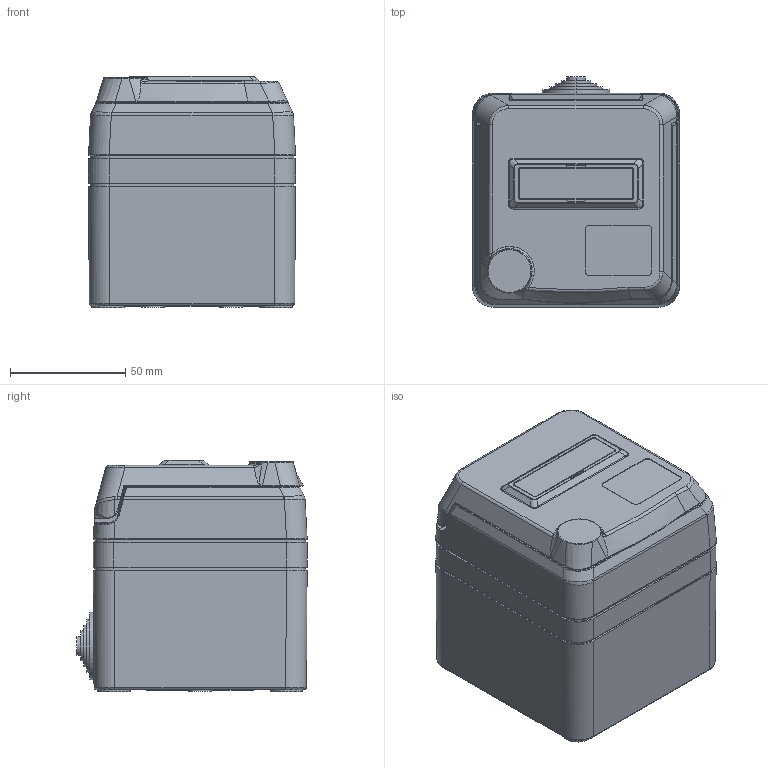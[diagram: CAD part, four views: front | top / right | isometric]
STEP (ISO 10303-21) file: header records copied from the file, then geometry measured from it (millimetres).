
FILE_DESCRIPTION((''),'2;1');
FILE_NAME('C00008890_SW0001','2026-03-26T11:16:42',('thiedeman001'),('MENNEKES'),'CREO PARAMETRIC BY PTC INC, 2024153','CREO PARAMETRIC BY PTC INC, 2024153','');
FILE_SCHEMA(('AUTOMOTIVE_DESIGN { 1 0 10303 214 1 1 1 1 }'));
Products named in the file (1): C00008890_SW0001
Bounding box: 90 x 100.14 x 100.8 mm (x, y, z)
Volume: 786564.4 mm3; surface area: 54082.9 mm2
Topology: 1 solids, 1 shells, 1392 faces, 3759 edges, 2436 vertices
Faces by surface type: plane 1066, cylinder 166, bspline 127, cone 12, torus 10, extrusion 8, sphere 3
Entity records: 71949 total; most frequent: CARTESIAN_POINT 16418, ORIENTED_EDGE 7514, DIRECTION 6318, PRESENTATION_STYLE_ASSIGNMENT 5158, STYLED_ITEM 3766, CURVE_STYLE 3765, EDGE_CURVE 3757, VECTOR 3154
